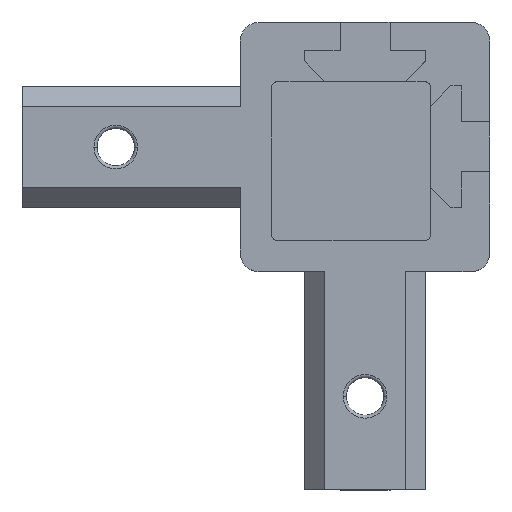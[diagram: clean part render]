
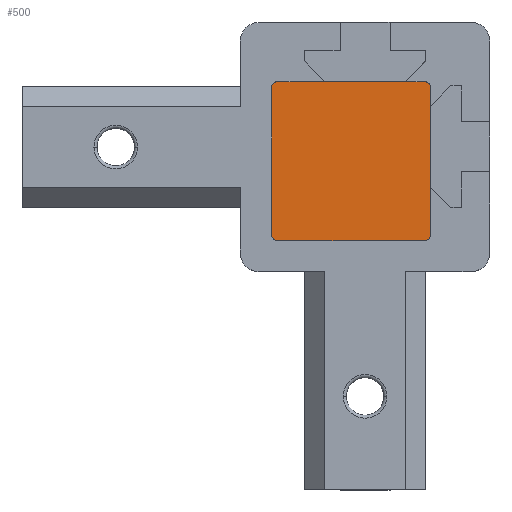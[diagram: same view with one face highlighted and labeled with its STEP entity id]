
A CAD part, top view. The second image highlights one B-rep face of the part: STEP entity #500.
In plain terms, the highlighted planar face has unit normal (0, 0, 1).
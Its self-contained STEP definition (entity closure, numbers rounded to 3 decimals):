
#47 = VERTEX_POINT ( 'NONE', #2317 ) ;
#72 = CARTESIAN_POINT ( 'NONE',  ( -14.667, 12.583, 4.5 ) ) ;
#95 = LINE ( 'NONE', #1716, #629 ) ;
#176 = CIRCLE ( 'NONE', #2656, 1. ) ;
#214 = EDGE_LOOP ( 'NONE', ( #1629, #254, #316, #1737, #584, #834, #2037, #2592 ) ) ;
#232 = DIRECTION ( 'NONE',  ( 0., 0., 1. ) ) ;
#235 = DIRECTION ( 'NONE',  ( 0., 0., 1. ) ) ;
#254 = ORIENTED_EDGE ( 'NONE', *, *, #1240, .T. ) ;
#286 = VERTEX_POINT ( 'NONE', #1707 ) ;
#301 = CARTESIAN_POINT ( 'NONE',  ( -13.667, -11.917, 4.5 ) ) ;
#314 = VERTEX_POINT ( 'NONE', #72 ) ;
#316 = ORIENTED_EDGE ( 'NONE', *, *, #1161, .T. ) ;
#456 = LINE ( 'NONE', #894, #1630 ) ;
#458 = VERTEX_POINT ( 'NONE', #1973 ) ;
#500 = ADVANCED_FACE ( 'NONE', ( #915 ), #1962, .F. ) ;
#521 = VECTOR ( 'NONE', #2354, 1000. ) ;
#584 = ORIENTED_EDGE ( 'NONE', *, *, #2038, .T. ) ;
#585 = DIRECTION ( 'NONE',  ( -1., 0., 0. ) ) ;
#629 = VECTOR ( 'NONE', #1285, 1000. ) ;
#652 = CARTESIAN_POINT ( 'NONE',  ( -13.667, 11.583, 4.5 ) ) ;
#682 = LINE ( 'NONE', #2673, #1725 ) ;
#751 = AXIS2_PLACEMENT_3D ( 'NONE', #2328, #1084, #2542 ) ;
#777 = VERTEX_POINT ( 'NONE', #301 ) ;
#834 = ORIENTED_EDGE ( 'NONE', *, *, #1262, .T. ) ;
#894 = CARTESIAN_POINT ( 'NONE',  ( -39.167, 11.583, 4.5 ) ) ;
#905 = CARTESIAN_POINT ( 'NONE',  ( -14.667, -11.917, 4.5 ) ) ;
#915 = FACE_OUTER_BOUND ( 'NONE', #214, .T. ) ;
#948 = DIRECTION ( 'NONE',  ( -1., 0., 0. ) ) ;
#1084 = DIRECTION ( 'NONE',  ( 0., 0., 1. ) ) ;
#1123 = DIRECTION ( 'NONE',  ( -1., 0., 0. ) ) ;
#1161 = EDGE_CURVE ( 'NONE', #2107, #314, #2304, .T. ) ;
#1177 = CARTESIAN_POINT ( 'NONE',  ( -14.667, -11.917, 4.5 ) ) ;
#1240 = EDGE_CURVE ( 'NONE', #777, #2107, #1694, .T. ) ;
#1249 = VERTEX_POINT ( 'NONE', #2560 ) ;
#1262 = EDGE_CURVE ( 'NONE', #458, #286, #456, .T. ) ;
#1285 = DIRECTION ( 'NONE',  ( 1., 0., 0. ) ) ;
#1392 = AXIS2_PLACEMENT_3D ( 'NONE', #1454, #235, #1673 ) ;
#1433 = EDGE_CURVE ( 'NONE', #314, #47, #682, .T. ) ;
#1451 = CARTESIAN_POINT ( 'NONE',  ( -38.167, -11.917, 4.5 ) ) ;
#1454 = CARTESIAN_POINT ( 'NONE',  ( -38.167, 11.583, 4.5 ) ) ;
#1564 = DIRECTION ( 'NONE',  ( 0., 0., -1. ) ) ;
#1629 = ORIENTED_EDGE ( 'NONE', *, *, #1667, .T. ) ;
#1630 = VECTOR ( 'NONE', #2363, 1000. ) ;
#1667 = EDGE_CURVE ( 'NONE', #1249, #777, #176, .T. ) ;
#1669 = DIRECTION ( 'NONE',  ( -1., 0., 0. ) ) ;
#1673 = DIRECTION ( 'NONE',  ( 1., 0., 0. ) ) ;
#1694 = LINE ( 'NONE', #2551, #521 ) ;
#1707 = CARTESIAN_POINT ( 'NONE',  ( -39.167, -11.917, 4.5 ) ) ;
#1716 = CARTESIAN_POINT ( 'NONE',  ( -14.667, -12.917, 4.5 ) ) ;
#1725 = VECTOR ( 'NONE', #585, 1000. ) ;
#1736 = CARTESIAN_POINT ( 'NONE',  ( -38.167, -12.917, 4.5 ) ) ;
#1737 = ORIENTED_EDGE ( 'NONE', *, *, #1433, .T. ) ;
#1750 = AXIS2_PLACEMENT_3D ( 'NONE', #1177, #1564, #948 ) ;
#1962 = PLANE ( 'NONE',  #1750 ) ;
#1973 = CARTESIAN_POINT ( 'NONE',  ( -39.167, 11.583, 4.5 ) ) ;
#2037 = ORIENTED_EDGE ( 'NONE', *, *, #2625, .T. ) ;
#2038 = EDGE_CURVE ( 'NONE', #47, #458, #2615, .T. ) ;
#2107 = VERTEX_POINT ( 'NONE', #652 ) ;
#2166 = EDGE_CURVE ( 'NONE', #2245, #1249, #95, .T. ) ;
#2213 = CIRCLE ( 'NONE', #2266, 1. ) ;
#2245 = VERTEX_POINT ( 'NONE', #1736 ) ;
#2266 = AXIS2_PLACEMENT_3D ( 'NONE', #1451, #232, #1669 ) ;
#2304 = CIRCLE ( 'NONE', #751, 1. ) ;
#2317 = CARTESIAN_POINT ( 'NONE',  ( -38.167, 12.583, 4.5 ) ) ;
#2328 = CARTESIAN_POINT ( 'NONE',  ( -14.667, 11.583, 4.5 ) ) ;
#2354 = DIRECTION ( 'NONE',  ( 0., 1., 0. ) ) ;
#2363 = DIRECTION ( 'NONE',  ( 0., -1., 0. ) ) ;
#2369 = DIRECTION ( 'NONE',  ( 0., 0., 1. ) ) ;
#2542 = DIRECTION ( 'NONE',  ( -1., 0., 0. ) ) ;
#2551 = CARTESIAN_POINT ( 'NONE',  ( -13.667, 11.583, 4.5 ) ) ;
#2560 = CARTESIAN_POINT ( 'NONE',  ( -14.667, -12.917, 4.5 ) ) ;
#2592 = ORIENTED_EDGE ( 'NONE', *, *, #2166, .T. ) ;
#2615 = CIRCLE ( 'NONE', #1392, 1. ) ;
#2625 = EDGE_CURVE ( 'NONE', #286, #2245, #2213, .T. ) ;
#2656 = AXIS2_PLACEMENT_3D ( 'NONE', #905, #2369, #1123 ) ;
#2673 = CARTESIAN_POINT ( 'NONE',  ( -14.667, 12.583, 4.5 ) ) ;
